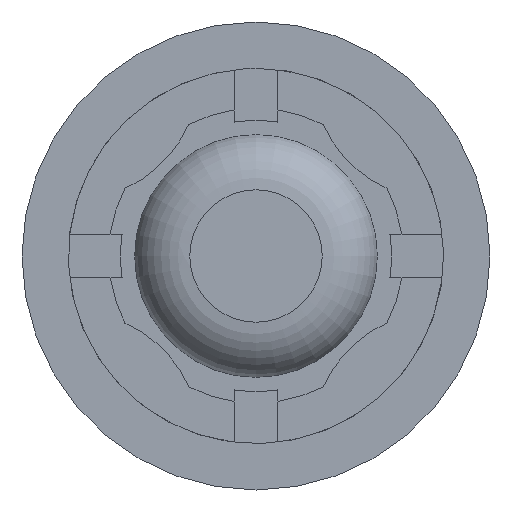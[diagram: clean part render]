
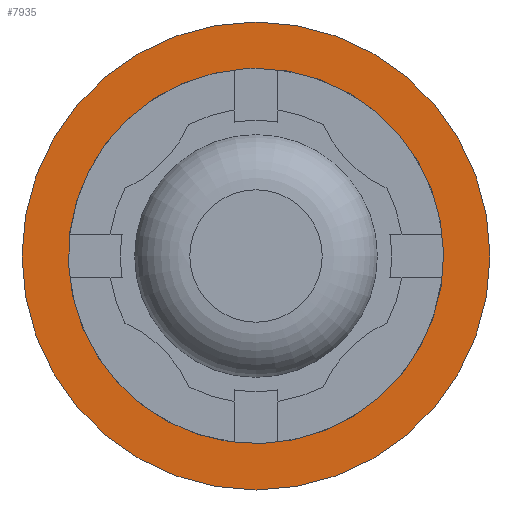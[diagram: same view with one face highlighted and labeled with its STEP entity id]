
A CAD part, front view. The second image highlights one B-rep face of the part: STEP entity #7935.
In plain terms, the highlighted planar face has unit normal (0, -1, 0).
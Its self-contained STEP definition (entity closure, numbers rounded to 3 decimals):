
#7935=ADVANCED_FACE('',(#14124,#14126),#14128,.T.);
#14124=FACE_BOUND('',#14125,.T.);
#14125=EDGE_LOOP('',(#20759,#20760));
#14126=FACE_BOUND('',#14127,.T.);
#14127=EDGE_LOOP('',(#20761,#20762));
#14128=PLANE('',#14129);
#14129=AXIS2_PLACEMENT_3D('',#14130,#14131,#14132);
#14130=CARTESIAN_POINT('',(0.,-67.905,547.516));
#14131=DIRECTION('',(0.,-1.,0.));
#14132=DIRECTION('',(1.,0.,0.));
#20759=ORIENTED_EDGE('',*,*,#23341,.F.);
#20760=ORIENTED_EDGE('',*,*,#23342,.F.);
#20761=ORIENTED_EDGE('',*,*,#23340,.T.);
#20762=ORIENTED_EDGE('',*,*,#23339,.T.);
#23339=EDGE_CURVE('',#27572,#27573,#27574,.T.);
#23340=EDGE_CURVE('',#27573,#27572,#27575,.T.);
#23341=EDGE_CURVE('',#27576,#27577,#27578,.T.);
#23342=EDGE_CURVE('',#27577,#27576,#27579,.T.);
#27572=VERTEX_POINT('',#38576);
#27573=VERTEX_POINT('',#38577);
#27574=CIRCLE('',#38578,21.65);
#27575=CIRCLE('',#38582,21.65);
#27576=VERTEX_POINT('',#38586);
#27577=VERTEX_POINT('',#38587);
#27578=CIRCLE('',#38588,27.);
#27579=CIRCLE('',#38592,27.);
#38576=CARTESIAN_POINT('',(-1.252,-67.905,542.13));
#38577=CARTESIAN_POINT('',(0.,-67.905,542.166));
#38578=AXIS2_PLACEMENT_3D('',#38579,#38580,#38581);
#38579=CARTESIAN_POINT('',(0.,-67.905,520.516));
#38580=DIRECTION('',(0.,1.,0.));
#38581=DIRECTION('',(-0.058,0.,0.998));
#38582=AXIS2_PLACEMENT_3D('',#38583,#38584,#38585);
#38583=CARTESIAN_POINT('',(0.,-67.905,520.516));
#38584=DIRECTION('',(0.,1.,0.));
#38585=DIRECTION('',(0.,0.,1.));
#38586=CARTESIAN_POINT('',(0.,-67.905,493.516));
#38587=CARTESIAN_POINT('',(0.,-67.905,547.516));
#38588=AXIS2_PLACEMENT_3D('',#38589,#38590,#38591);
#38589=CARTESIAN_POINT('',(0.,-67.905,520.516));
#38590=DIRECTION('',(0.,1.,0.));
#38591=DIRECTION('',(0.,0.,-1.));
#38592=AXIS2_PLACEMENT_3D('',#38593,#38594,#38595);
#38593=CARTESIAN_POINT('',(0.,-67.905,520.516));
#38594=DIRECTION('',(0.,1.,0.));
#38595=DIRECTION('',(0.,0.,1.));
